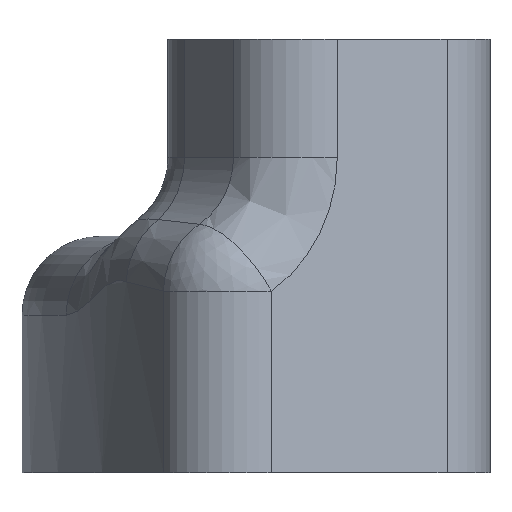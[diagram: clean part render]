
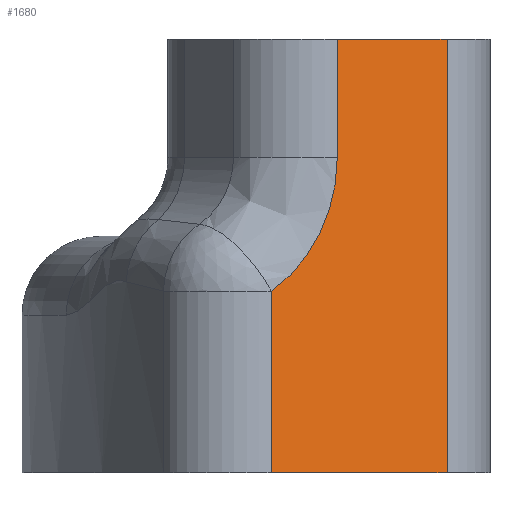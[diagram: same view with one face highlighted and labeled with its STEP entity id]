
A CAD part, front view. The second image highlights one B-rep face of the part: STEP entity #1680.
In plain terms, the highlighted planar face has unit normal (0.455, -0.89, 0).
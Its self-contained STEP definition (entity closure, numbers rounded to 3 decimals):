
#82=DIRECTION('',(0.89,0.455,0.));
#83=VECTOR('',#82,5.008);
#84=CARTESIAN_POINT('',(-247.678,-12.732,198.));
#85=LINE('',#84,#83);
#538=DIRECTION('',(0.,0.,-1.));
#539=VECTOR('',#538,3.);
#540=CARTESIAN_POINT('',(-246.004,-11.876,209.));
#541=LINE('',#540,#539);
#546=CARTESIAN_POINT('',(-247.678,-12.732,202.61));
#547=CARTESIAN_POINT('',(-247.507,-12.644,202.731));
#548=CARTESIAN_POINT('',(-247.188,-12.481,202.999));
#549=CARTESIAN_POINT('',(-246.772,-12.268,203.491));
#550=CARTESIAN_POINT('',(-246.436,-12.097,204.053));
#551=CARTESIAN_POINT('',(-246.189,-11.97,204.67));
#552=CARTESIAN_POINT('',(-246.038,-11.893,205.327));
#553=CARTESIAN_POINT('',(-246.004,-11.876,205.773));
#554=CARTESIAN_POINT('',(-246.004,-11.876,206.));
#556=DIRECTION('',(0.,0.,-1.));
#557=VECTOR('',#556,4.61);
#558=CARTESIAN_POINT('',(-247.678,-12.732,202.61));
#559=LINE('',#558,#557);
#560=DIRECTION('',(-0.89,-0.455,0.));
#561=VECTOR('',#560,3.128);
#562=CARTESIAN_POINT('',(-243.22,-10.452,209.));
#563=LINE('',#562,#561);
#712=DIRECTION('',(0.,0.,1.));
#713=VECTOR('',#712,11.);
#714=CARTESIAN_POINT('',(-243.22,-10.452,198.));
#715=LINE('',#714,#713);
#737=CARTESIAN_POINT('',(-243.22,-10.452,209.));
#738=CARTESIAN_POINT('',(-246.004,-11.876,209.));
#739=VERTEX_POINT('',#737);
#740=VERTEX_POINT('',#738);
#757=CARTESIAN_POINT('',(-247.678,-12.732,202.61));
#758=CARTESIAN_POINT('',(-247.678,-12.732,198.));
#759=VERTEX_POINT('',#757);
#760=VERTEX_POINT('',#758);
#761=VERTEX_POINT('',#554);
#762=CARTESIAN_POINT('',(-243.22,-10.452,198.));
#763=VERTEX_POINT('',#762);
#1664=CARTESIAN_POINT('',(-245.498,-11.617,197.998));
#1665=DIRECTION('',(0.455,-0.89,0.));
#1666=DIRECTION('',(-0.89,-0.455,0.));
#1667=AXIS2_PLACEMENT_3D('',#1664,#1665,#1666);
#1668=PLANE('',#1667);
#1670=ORIENTED_EDGE('',*,*,#1669,.F.);
#1671=ORIENTED_EDGE('',*,*,#1641,.T.);
#1672=ORIENTED_EDGE('',*,*,#1654,.F.);
#1674=ORIENTED_EDGE('',*,*,#1673,.F.);
#1676=ORIENTED_EDGE('',*,*,#1675,.F.);
#1677=ORIENTED_EDGE('',*,*,#988,.F.);
#1678=EDGE_LOOP('',(#1670,#1671,#1672,#1674,#1676,#1677));
#1679=FACE_OUTER_BOUND('',#1678,.F.);
#1680=ADVANCED_FACE('',(#1679),#1668,.T.);
#555=B_SPLINE_CURVE_WITH_KNOTS('',3,(#546,#547,#548,#549,#550,#551,#552,#553,
#554),.UNSPECIFIED.,.F.,.F.,(4,1,1,1,1,1,4),(0.,0.167,
0.333,0.5,0.667,0.833,1.),
.UNSPECIFIED.);
#988=EDGE_CURVE('',#760,#763,#85,.T.);
#1641=EDGE_CURVE('',#759,#761,#555,.T.);
#1654=EDGE_CURVE('',#740,#761,#541,.T.);
#1669=EDGE_CURVE('',#759,#760,#559,.T.);
#1673=EDGE_CURVE('',#739,#740,#563,.T.);
#1675=EDGE_CURVE('',#763,#739,#715,.T.);
